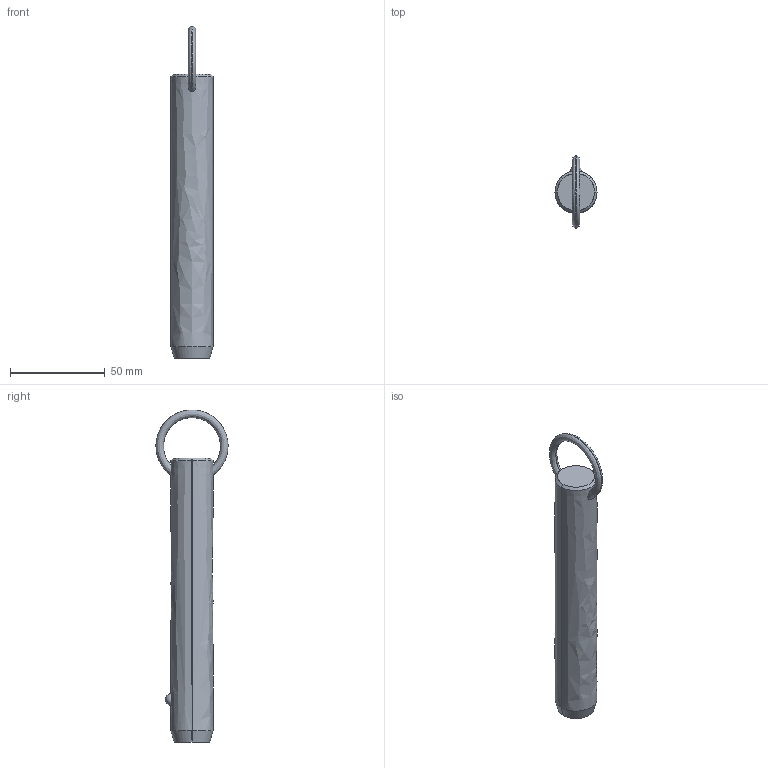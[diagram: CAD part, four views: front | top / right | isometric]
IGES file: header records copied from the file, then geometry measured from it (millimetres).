
Start section: SolidWorks IGES file using analytic representation for surfaces
Global section: file name: C:\Users\liam_\OneDrive\Documents\WORK\Work for WixRoyd\Job Files\J-00019 - Matt Davis CAD Checking\04. CAD Drawings\automotion20190605\P1250.2_v2\P1250.2_v2_20190729_IGES\P1250.087-440.igs; native system: SolidWorks 2017; preprocessor: SolidWorks 2017; author: liam_; date: 190730.001210; units: millimetre
Bounding box: 22.2 x 38.09 x 175.3 mm (x, y, z)
Surface area: 12098.3 mm2 (no closed solid volume)
Topology: 0 solids, 0 shells, 12 faces, 302 edges, 300 vertices
Faces by surface type: revolution 8, bspline 4
